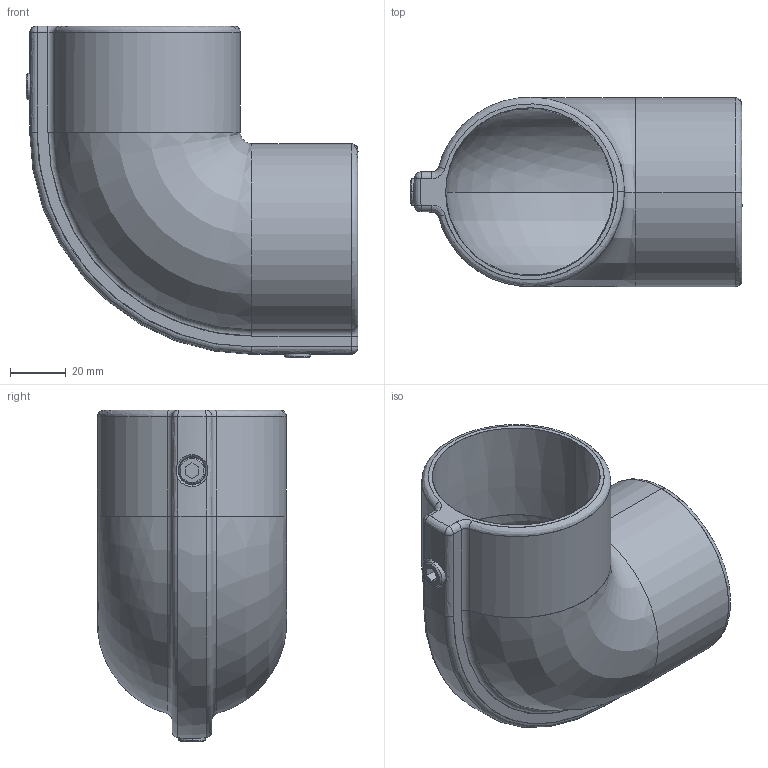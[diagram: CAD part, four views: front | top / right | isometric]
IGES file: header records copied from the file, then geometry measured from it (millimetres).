
Global section: file name: 0353-80-05; native system: VariCAD 2012-1.04; preprocessor: 5.3; author: LVVS3874K00E; organization: Elphe, Inc.; date: 20120610.221110; units: millimetre
Bounding box: 119.17 x 67.87 x 119.17 mm (x, y, z)
Surface area: 60276.3 mm2 (no closed solid volume)
Topology: 0 solids, 0 shells, 87 faces, 418 edges, 414 vertices
Faces by surface type: revolution 61, bspline 26
